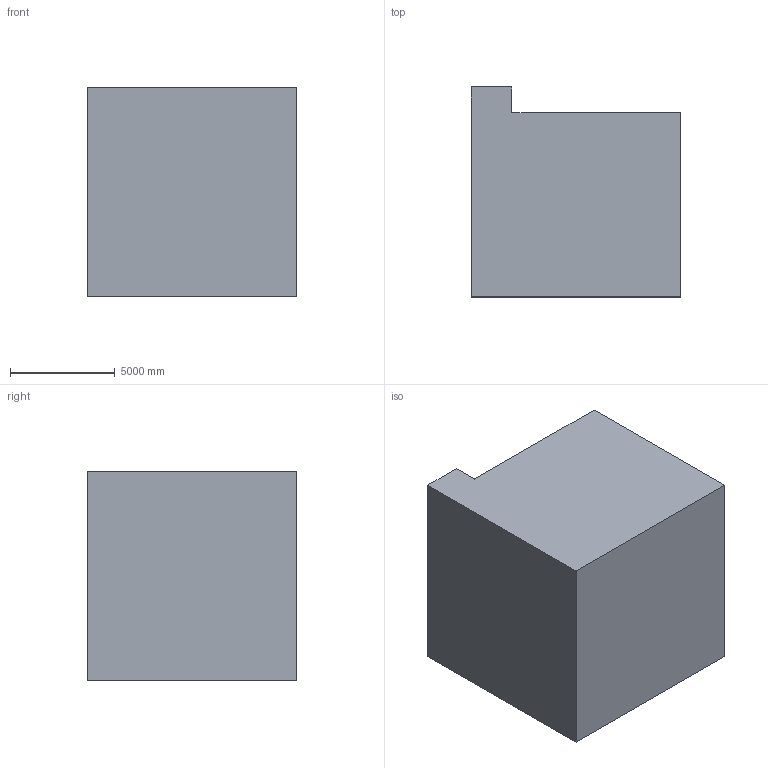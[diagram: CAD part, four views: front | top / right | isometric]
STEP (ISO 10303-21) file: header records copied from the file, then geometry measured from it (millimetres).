
FILE_DESCRIPTION (( 'STEP AP203' ), '1' );
FILE_NAME ('15.STEP', '2022-09-01T11:36:41', ( 'user' ), ( '' ), 'SwSTEP 2.0', 'SolidWorks 2021', '' );
FILE_SCHEMA (( 'CONFIG_CONTROL_DESIGN' ));
Length unit declared in the file: centimetre
Products named in the file (1): 15
Bounding box: 10000 x 10000 x 10000 mm (x, y, z)
Volume: 810413036261.6 mm3; surface area: 565376502.1 mm2
Topology: 1 solids, 1 shells, 10 faces, 24 edges, 16 vertices
Faces by surface type: plane 9, cylinder 1
Entity records: 367 total; most frequent: CARTESIAN_POINT 57, ORIENTED_EDGE 48, DIRECTION 46, EDGE_CURVE 24, VECTOR 20, LINE 20, VERTEX_POINT 16, AXIS2_PLACEMENT_3D 13
